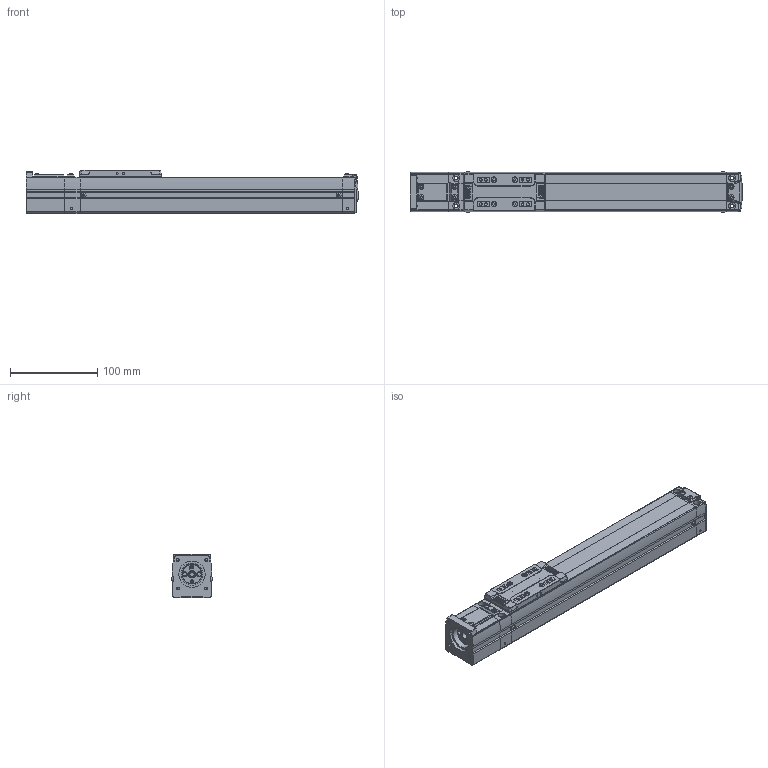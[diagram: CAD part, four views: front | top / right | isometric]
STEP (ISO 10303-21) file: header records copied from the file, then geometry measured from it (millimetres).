
FILE_DESCRIPTION(('STEP AP214'),'1');
FILE_NAME('Z:/Web/3D/SAN45/STP/SAN45ㅁㅁ-200S.stp','2012-06-15T04:45:16',(' '),(' '),'Spatial InterOp 3D',' ',' ');
FILE_SCHEMA(('automotive_design'));
Length unit declared in the file: metre
Products named in the file (63): SAN45__-200; BODY-SAN45; REAR-SAN45; RRCV-SAN45; BHCS M3 x 6L; BHCS M3 X 6L; FRONT-SAN45; SHAFT; RN8 x 0.75; SSFX-SAN45; SLIDE-SAN45; SLCV-IM45; FHCS M3 x 6L; ____91; S; MTHZ-SAN45; SDWB 22C-6-8; SDWB22C(2); SDWB22C(2)_1; SDWB22C(3); SDWB22C(3)_1; SDWB22C(3)_2; SDWB22C(3)_3; SDWB22C(3)_4; SDWB22C(3)_5; SDWB22C(3)_6; SDWB22C(3)_7; SDWB22C(3)_8; SDWB22C(3)_9; SDWB22C(3)_10; SDWB22C(3)_11; SDWB22C(3)_12; SDWB22C(3)_13; SDWB22C(3)_14; SDWB22C(3)_15; SDWB22C(4); SDWB22C(5); SDWB22C(5)_1; SDWB22C(5)_2; SDWB22C(5)_3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
Assembly tree (62 placements, depth 4):
  ____91
    SAN45__-200
      BODY-SAN45
      REAR-SAN45
        REAR-SAN45
        RRCV-SAN45
        BHCS M3 x 6L
        BHCS M3 X 6L
        BHCS M3 x 6L
        BHCS M3 x 6L
        BHCS M3 x 6L
        BHCS M3 x 6L
      FRONT-SAN45
        FRONT-SAN45
        SHAFT
        RN8 x 0.75
        SSFX-SAN45
        BHCS M3 x 6L
        BHCS M3 x 6L
        BHCS M3 x 6L
        BHCS M3 x 6L
      SLIDE-SAN45
        SLIDE-SAN45
        SLCV-IM45
        FHCS M3 x 6L
        FHCS M3 x 6L
        FHCS M3 x 6L
        FHCS M3 x 6L
    S
      MTHZ-SAN45
      SDWB 22C-6-8
        SDWB22C(2)
        SDWB22C(2)_1
        SDWB22C(3)
        SDWB22C(3)_1
        SDWB22C(3)_2
        SDWB22C(3)_3
        SDWB22C(3)_4
        SDWB22C(3)_5
        SDWB22C(3)_6
        SDWB22C(3)_7
        SDWB22C(3)_8
        SDWB22C(3)_9
        SDWB22C(3)_10
        SDWB22C(3)_11
        SDWB22C(3)_12
        SDWB22C(3)_13
        SDWB22C(3)_14
        SDWB22C(3)_15
        SDWB22C(4)
        SDWB22C(5)
        SDWB22C(5)_1
        SDWB22C(5)_2
        SDWB22C(5)_3
        SDWB22C(5)_4
        SDWB22C(5)_5
        SDWB22C(5)_6
        SDWB22C(5)_7
        SDWA22C(1)
        SDWA22C(1)
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Bounding box: 380.15 x 47.13 x 50 mm (x, y, z)
Volume: 691680.8 mm3; surface area: 131968.5 mm2
Topology: 56 solids, 56 shells, 1807 faces, 4631 edges, 3010 vertices
Faces by surface type: plane 1031, cylinder 553, cone 143, bspline 42, sphere 24, torus 11, extrusion 3
Full cylindrical faces by diameter (mm): 0.376 x2, 0.47 x1, 1.137 x2, 1.421 x1, 1.665 x4, 2.081 x2, 2.2 x4, 2.5 x39, 2.6 x14, 2.7 x2, 3 x10, 3.193 x4, 3.3 x8, 3.4 x4, 3.5 x8, 3.991 x2, 4.2 x7, 4.5 x28, 4.9 x2, 5 x13, 6 x9, 7 x1, 8 x9, 9 x1, 10.7 x2, 13 x1, 15 x1, 19 x1, 22.2 x3, 25 x1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
Entity records: 72541 total; most frequent: CARTESIAN_POINT 13863, DIRECTION 9083, ORIENTED_EDGE 8356, EDGE_CURVE 4178, AXIS2_PLACEMENT_3D 3227, VERTEX_POINT 2891, VECTOR 2629, LINE 2626
